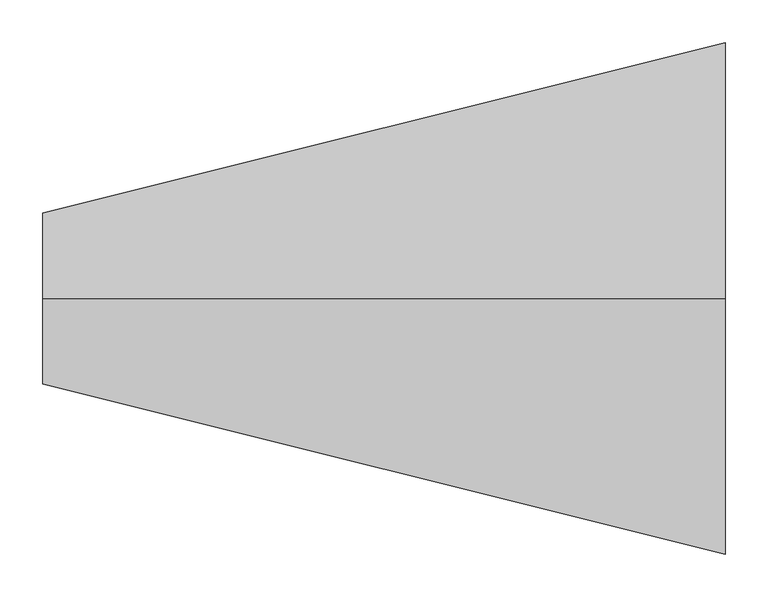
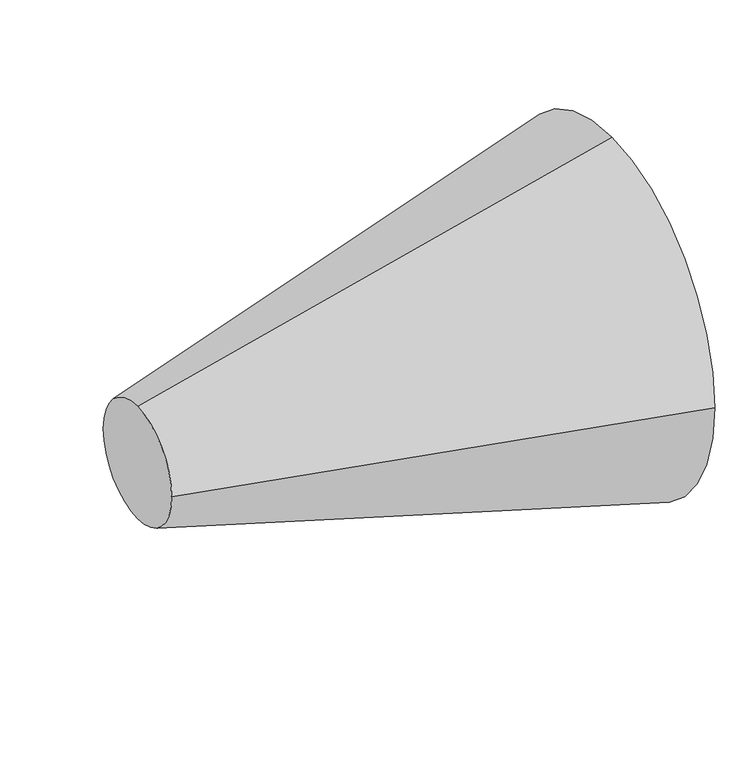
"""IFC4 building model written with IfcOpenShell, lengths in millimetres: duct fitting geometry, Переходник круглого сечения - Длина : Стандартное."""

from ifc_helpers import new_model, si_unit, frame, origin, place, context, project, spatial, polyline, circle_curve, source, transform, mapped, element, save
from ifc_brep_helpers import plane_surface, revolved_surface, advanced_brep


def duct_fitting_752f6e0b(model_context):
    return source(origin(), model_context, "Body", "AdvancedBrep", [
        advanced_brep(
        [(800.0, 300.0, 0.0), (800.0, 0.0, 300.0), (800.0, -300.0, 0.0), (800.0, 0.0, -300.0), (0.0, 100.0, 0.0), (0.0, 0.0, -100.0), (0.0, -100.0, 0.0), (0.0, 0.0, 100.0)],
        [
            (0, 1, circle_curve(frame((800.0, 0.0, 0.0), z_axis=(1.0, 0.0, 0.0), x_axis=(0.0, 1.0, 0.0)), 300.0)),
            (1, 2, circle_curve(frame((800.0, 0.0, 0.0), z_axis=(1.0, 0.0, 0.0), x_axis=(0.0, 0.0, 1.0)), 300.0)),
            (2, 3, circle_curve(frame((800.0, 0.0, 0.0), z_axis=(1.0, 0.0, 0.0), x_axis=(0.0, -1.0, 0.0)), 300.0)),
            (3, 0, circle_curve(frame((800.0, 0.0, 0.0), z_axis=(1.0, 0.0, 0.0), x_axis=(0.0, 0.0, -1.0)), 300.0)),
            (4, 5, circle_curve(frame((0.0, 0.0, 0.0), z_axis=(-1.0, 0.0, 0.0), x_axis=(0.0, 0.0, -1.0)), 100.0)),
            (5, 6, circle_curve(frame((0.0, 0.0, 0.0), z_axis=(-1.0, 0.0, 0.0), x_axis=(0.0, -1.0, 0.0)), 100.0)),
            (6, 7, circle_curve(frame((0.0, 0.0, 0.0), z_axis=(-1.0, 0.0, 0.0), x_axis=(0.0, 0.0, 1.0)), 100.0)),
            (7, 4, circle_curve(frame((0.0, 0.0, 0.0), z_axis=(-1.0, 0.0, 0.0), x_axis=(0.0, 1.0, 0.0)), 100.0)),
            (0, 4),
            (7, 1),
            (6, 2),
            (5, 3),
        ],
        [
            plane_surface(frame((800.0, 0.0, 0.0), z_axis=(1.0, 0.0, 0.0), x_axis=(0.0, 0.0, 1.0))),
            plane_surface(frame((0.0, 0.0, 0.0), z_axis=(-1.0, 0.0, 0.0), x_axis=(0.0, 0.0, 1.0))),
            revolved_surface(polyline([(0.0, 0.0, 100.0), (800.0, 0.0, 300.0)]), (-400.0, 0.0, 0.0), (1.0, 0.0, 0.0)),
            revolved_surface(polyline([(0.0, -100.0, 0.0), (800.0, -300.0, 0.0)]), (-400.0, 0.0, 0.0), (1.0, 0.0, 0.0)),
            revolved_surface(polyline([(0.0, 0.0, -100.0), (800.0, 0.0, -300.0)]), (-400.0, 0.0, 0.0), (1.0, 0.0, 0.0)),
            revolved_surface(polyline([(0.0, 100.0, 0.0), (800.0, 300.0, 0.0)]), (-400.0, 0.0, 0.0), (1.0, 0.0, 0.0)),
        ],
        [
            (0, [[1, 2, 3, 4]]),
            (1, [[5, 6, 7, 8]]),
            (2, [[-1, 9, -8, 10]]),
            (3, [[-2, -10, -7, 11]]),
            (4, [[-3, -11, -6, 12]]),
            (5, [[-4, -12, -5, -9]]),
        ],
    ),
    ])


if __name__ == "__main__":
    model = new_model("IFC4")
    model_context = context("Model", 3, world=origin())
    ifc_project = project(units=[si_unit("LENGTHUNIT", "METRE", prefix="MILLI")], contexts=[model_context])
    site = spatial("IfcSite", under=ifc_project)
    building = spatial("IfcBuilding", under=site)
    placement = place(None, origin())
    duct_fitting_shape = duct_fitting_752f6e0b(model_context)
    element("IfcDuctFitting", 1, ObjectType="Переходник круглого сечения - Длина : Стандартное", at=placement, inside=building, context=model_context, shape_type="MappedRepresentation", body=[
        mapped(duct_fitting_shape, transform((0.0, 0.0, 0.0), x_axis=(1.0, 0.0, 0.0), y_axis=(0.0, 1.0, 0.0), z_axis=(0.0, 0.0, 1.0))),
    ])
    save(model, "model.ifc")
